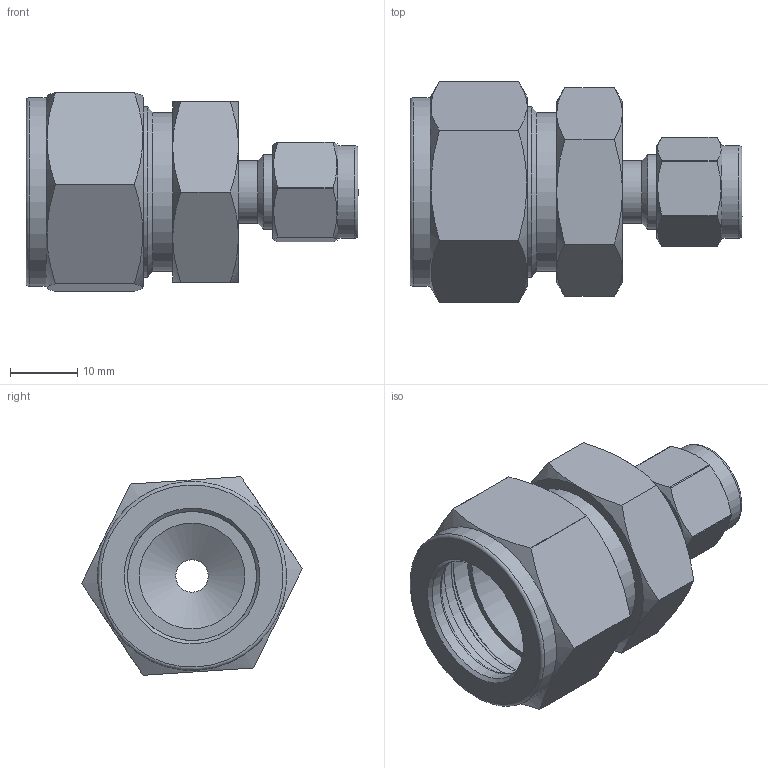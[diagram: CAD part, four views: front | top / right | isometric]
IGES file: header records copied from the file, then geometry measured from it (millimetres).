
Global section: file name: No Iges File Name specified; native system: Autodesk Inventor 2012; preprocessor: AutoDesk Inventor Iges Exporter R2012; author: 硅己绕,,1; organization: 1; date: 20150422.172341; units: millimetre
Bounding box: 49.53 x 32.93 x 29.63 mm (x, y, z)
Volume: 12562.7 mm3; surface area: 9454.6 mm2
Topology: 3 solids, 3 shells, 99 faces, 214 edges, 130 vertices
Faces by surface type: plane 33, revolution 22, cone 20, cylinder 20, torus 4
Full cylindrical faces by diameter (mm): 9.3 x1, 9.4 x1, 11.112 x1, 13.9 x1, 23.7 x1, 23.8 x1, 25.4 x1, 28.2 x1
